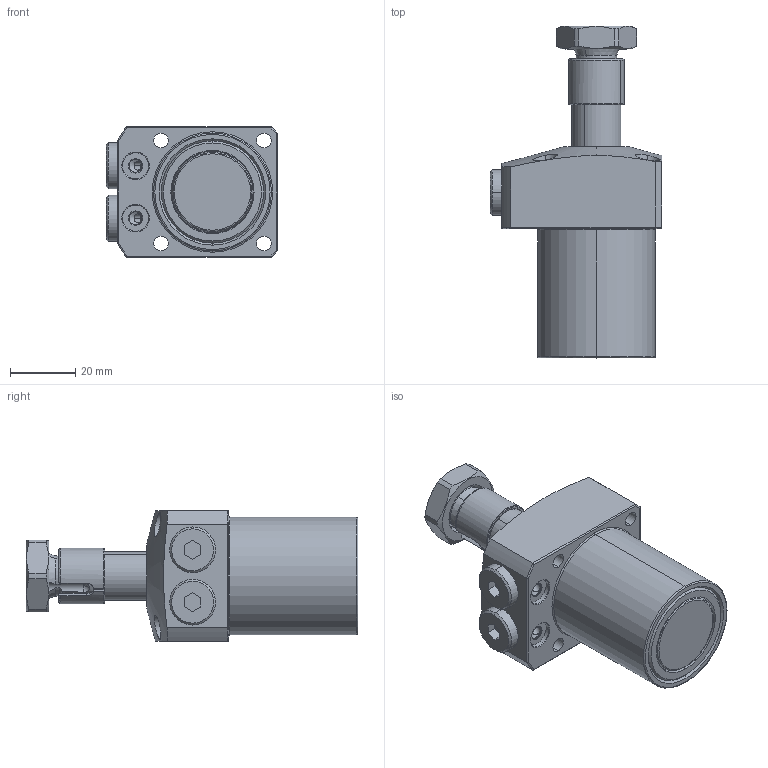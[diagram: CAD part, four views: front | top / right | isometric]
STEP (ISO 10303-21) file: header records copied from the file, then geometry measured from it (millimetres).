
FILE_DESCRIPTION(/* description */ (''),/* implementation_level */ '2;1');
FILE_NAME(/* name */ 'KTRC36-LN30.stp',/* time_stamp */ '2022-11-18T08:52:19+08:00',/* author */ (''),/* organization */ (''),/* preprocessor_version */ 'ST-DEVELOPER v16.7',/* originating_system */ 'SIEMENS PLM Software NX 12.0',/* authorisation */ '');
FILE_SCHEMA (('AP203_CONFIGURATION_CONTROLLED_3D_DESIGN_OF_MECHANICAL_PARTS_AND_ASSEMBLIES_MIM_LF { 1 0 10303 403 2 1 2}'));
Length unit declared in the file: millimetre
Products named in the file (7): KTRC36-LN30-04; KTRC36-LN30-03; KTRC36-LN30-05; KTRC36-LN30-06; KTRC36-LN30-02; KTRC36-LN30-01; LHA0360-CL-Y30_step
Assembly tree (7 placements, depth 2):
  LHA0360-CL-Y30_step
    KTRC36-LN30-01
    KTRC36-LN30-02
    KTRC36-LN30-06  x2
    KTRC36-LN30-05
    KTRC36-LN30-03
    KTRC36-LN30-04
Bounding box: 52.5 x 101.4 x 40 mm (x, y, z)
Volume: 90538.3 mm3; surface area: 21830.8 mm2
Topology: 7 solids, 7 shells, 238 faces, 567 edges, 355 vertices
Faces by surface type: cylinder 85, plane 77, cone 51, torus 23, sphere 2
Entity records: 8181 total; most frequent: CARTESIAN_POINT 2109, DIRECTION 1140, ORIENTED_EDGE 1074, EDGE_CURVE 537, AXIS2_PLACEMENT_3D 468, VERTEX_POINT 337, EDGE_LOOP 252, CIRCLE 235
